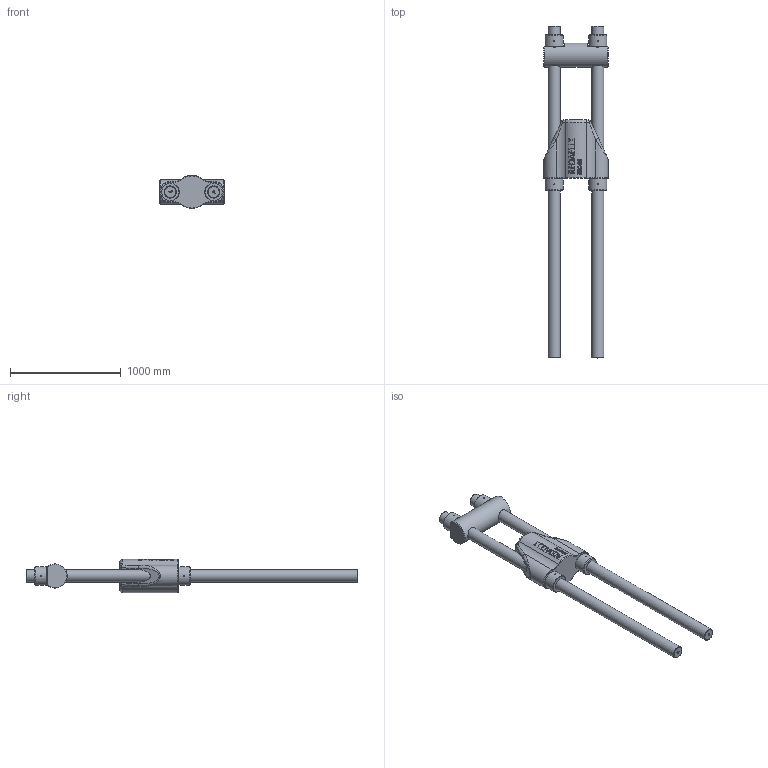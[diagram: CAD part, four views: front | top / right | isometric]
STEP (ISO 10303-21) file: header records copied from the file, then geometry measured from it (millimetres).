
FILE_DESCRIPTION(/* description */ (''),/* implementation_level */ '2;1');
FILE_NAME(/* name */ 'D:\Clienti\Redaelli (inventor)\BRC\STEP\Arrangemet\BRC096 72 111 0.stp',/* time_stamp */ '2021-05-08T08:38:22+02:00',/* author */ ('fabri'),/* organization */ (''),/* preprocessor_version */ 'ST-DEVELOPER v16.13',/* originating_system */ 'Autodesk Inventor 2018',/* authorisation */ '');
FILE_SCHEMA (('AUTOMOTIVE_DESIGN { 1 0 10303 214 3 1 1 }'));
Length unit declared in the file: millimetre
Products named in the file (5): BRC020 72 111 0; BRC020 71 112 0; BRC020 71 114 0_ROD; BRC020 71 113 0; BRC020 71 114 0_NUT
Assembly tree (8 placements, depth 2):
  BRC020 72 111 0
    BRC020 71 112 0
    BRC020 71 114 0_ROD  x2
    BRC020 71 113 0
    BRC020 71 114 0_NUT  x4
Bounding box: 584 x 3000 x 300 mm (x, y, z)
Volume: 126276221.9 mm3; surface area: 4187357.4 mm2
Topology: 8 solids, 8 shells, 1590 faces, 4274 edges, 2838 vertices
Faces by surface type: bspline 807, plane 660, cylinder 69, cone 30, torus 20, sphere 4
Full cylindrical faces by diameter (mm): 10 x16, 103.505 x4, 110 x2, 115 x4, 165 x4, 218 x1
Entity records: 31770 total; most frequent: CARTESIAN_POINT 12838, ORIENTED_EDGE 4586, DIRECTION 2507, EDGE_CURVE 2293, VERTEX_POINT 1528, LINE 1197, VECTOR 1197, EDGE_LOOP 977
